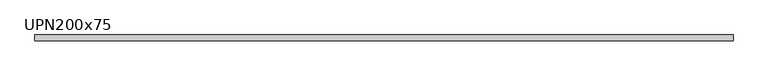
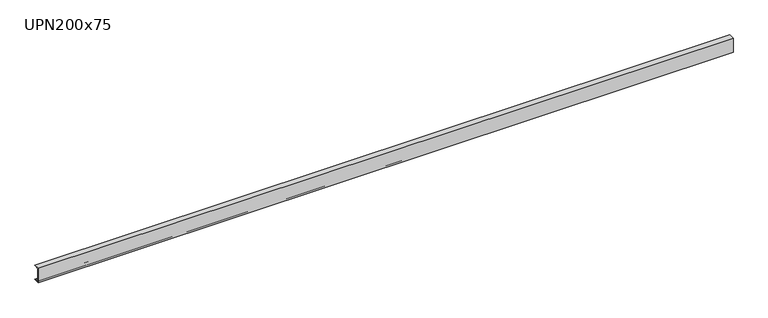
"""IFC4 building model written with IfcOpenShell, lengths in millimetres: beam geometry, M_MC Shapes : UPN200x75."""

import ifcopenshell
import ifcopenshell.guid

model = None  # the IFC model being written
_history = None  # IfcOwnerHistory: only IFC2X3 demands one
_inside = {}  # id of a spatial element -> (the spatial element, [elements in it])
_under = {}  # id of a project, library or spatial element -> (it, [spatial elements below it])
_declared = {}  # id of a project -> (the project, [libraries it declares])
_typed = {}  # id of a type object -> (the type object, [elements of that type])
_made_of = {}  # id of a material, layer set ... -> (it, [elements and type objects made of it])


def new_model(schema):
    """Start an empty IFC model of exactly this schema.

    Asked for "IFC4X3", IfcOpenShell would pick the latest addendum, in which some entities
    have other attributes; the version numbers below select the first issue.
    IFC2X3 requires an IfcOwnerHistory on every rooted entity: one is made here for all.
    """
    global model, _history
    if schema == "IFC4X3":
        model = ifcopenshell.file(schema_version=(4, 3, 0, 0))
    else:
        model = ifcopenshell.file(schema=schema)
    _inside.clear()
    _under.clear()
    _declared.clear()
    _typed.clear()
    _made_of.clear()
    _history = None
    if model.schema == "IFC2X3":
        org = make("IfcOrganization", Name="unknown")
        user = make(
            "IfcPersonAndOrganization",
            ThePerson=make("IfcPerson", FamilyName="unknown"),
            TheOrganization=org,
        )
        app = make(
            "IfcApplication",
            ApplicationDeveloper=org,
            Version="unknown",
            ApplicationFullName="unknown",
            ApplicationIdentifier="unknown",
        )
        _history = make(
            "IfcOwnerHistory",
            OwningUser=user,
            OwningApplication=app,
            ChangeAction="ADDED",
            CreationDate=0,
        )
    return model


def make(cls, **values):
    """One entity of the class cls with the attributes given. An attribute that is None is left unset."""
    return model.create_entity(
        cls, **{name: value for name, value in values.items() if value is not None}
    )


def rooted(cls, **values):
    """An entity with a GlobalId (a new one), such as an element, a storey or a relation."""
    return make(cls, GlobalId=ifcopenshell.guid.new(), OwnerHistory=_history, **values)


def si_unit(unit_type, name, prefix=None):
    """IfcSIUnit, for example si_unit("LENGTHUNIT", "METRE", prefix="MILLI")."""
    return make("IfcSIUnit", UnitType=unit_type, Prefix=prefix, Name=name)


def assignment(units):
    """IfcUnitAssignment: the units of a project."""
    return None if units is None else make("IfcUnitAssignment", Units=units)


def point(xyz):
    """IfcCartesianPoint."""
    return None if xyz is None else make("IfcCartesianPoint", Coordinates=xyz)


def direction(xyz):
    """IfcDirection."""
    return None if xyz is None else make("IfcDirection", DirectionRatios=xyz)


def frame(location, z_axis=None, x_axis=None):
    """IfcAxis2Placement3D, a coordinate frame: its origin and axes. An axis left out is left unset."""
    return make(
        "IfcAxis2Placement3D",
        Location=point(location),
        Axis=direction(z_axis),
        RefDirection=direction(x_axis),
    )


def frame_2d(location, x_axis=None):
    """IfcAxis2Placement2D, a coordinate frame in the plane: its origin and x axis."""
    return make(
        "IfcAxis2Placement2D", Location=point(location), RefDirection=direction(x_axis)
    )


def origin():
    """The frame at (0, 0, 0) with its axes left unset."""
    return frame((0.0, 0.0, 0.0))


def place(relative_to, where):
    """IfcLocalPlacement: puts the frame where relative to a parent placement (None: the world)."""
    return make(
        "IfcLocalPlacement", PlacementRelTo=relative_to, RelativePlacement=where
    )


def context(
    kind, dimensions, precision=None, world=None, true_north=None, identifier=None
):
    """IfcGeometricRepresentationContext, for example the 3D "Model" context."""
    return make(
        "IfcGeometricRepresentationContext",
        ContextIdentifier=identifier,
        ContextType=kind,
        CoordinateSpaceDimension=dimensions,
        Precision=precision,
        WorldCoordinateSystem=world,
        TrueNorth=true_north,
    )


def project(units=None, contexts=None):
    """IfcProject with its units and contexts."""
    return rooted(
        "IfcProject",
        Name="project",
        RepresentationContexts=contexts,
        UnitsInContext=assignment(units),
    )


def spatial(cls, under=None, at=None, **own):
    """A site, building, storey or space (cls), placed at a placement, below another one or the project."""
    s = rooted(cls, ObjectPlacement=at, **own)
    if under is not None:
        _under.setdefault(under.id(), (under, []))[1].append(s)
    return s


def polyline(points):
    """IfcPolyline through the points."""
    return make("IfcPolyline", Points=[point(p) for p in points])


def circle_curve(where, radius):
    """IfcCircle in the frame where."""
    return make("IfcCircle", Position=where, Radius=radius)


def trimmed(basis, trim1, trim2, sense, master):
    """IfcTrimmedCurve: the piece of a basis curve between two trims."""
    return make(
        "IfcTrimmedCurve",
        BasisCurve=basis,
        Trim1=trim1,
        Trim2=trim2,
        SenseAgreement=sense,
        MasterRepresentation=master,
    )


def segment(curve, same_sense, transition):
    """IfcCompositeCurveSegment."""
    return make(
        "IfcCompositeCurveSegment",
        Transition=transition,
        SameSense=same_sense,
        ParentCurve=curve,
    )


def composite_curve(segments, self_intersect=None):
    """IfcCompositeCurve: segments joined end to end."""
    return make("IfcCompositeCurve", Segments=segments, SelfIntersect=self_intersect)


def outline(outer, holes=None, kind="AREA"):
    """IfcArbitraryClosedProfileDef: a profile drawn as a closed curve; with holes, ...WithVoids."""
    if holes is None:
        return make("IfcArbitraryClosedProfileDef", ProfileType=kind, OuterCurve=outer)
    return make(
        "IfcArbitraryProfileDefWithVoids",
        ProfileType=kind,
        OuterCurve=outer,
        InnerCurves=holes,
    )


def extrude(swept, where, along, depth):
    """IfcExtrudedAreaSolid: the profile swept, set in the frame where, extruded along a direction by depth."""
    return make(
        "IfcExtrudedAreaSolid",
        SweptArea=swept,
        Position=where,
        ExtrudedDirection=direction(along),
        Depth=depth,
    )


def shape(context_of_items, identifier, shape_type, items):
    """IfcShapeRepresentation: the items that make up one representation, for example the "Body"."""
    return make(
        "IfcShapeRepresentation",
        ContextOfItems=context_of_items,
        RepresentationIdentifier=identifier,
        RepresentationType=shape_type,
        Items=items,
    )


def source(mapping_origin, context_of_items, identifier, shape_type, items):
    """IfcRepresentationMap: a shape defined once, which mapped items show again and again."""
    return make(
        "IfcRepresentationMap",
        MappingOrigin=mapping_origin,
        MappedRepresentation=shape(context_of_items, identifier, shape_type, items),
    )


def transform(
    local_origin,
    x_axis=None,
    y_axis=None,
    z_axis=None,
    scale=None,
    scale2=None,
    scale3=None,
    uniform=True,
):
    """IfcCartesianTransformationOperator3D, or its non-uniform kind. x_axis, y_axis, z_axis: its Axis1, 2, 3."""
    if uniform:
        return make(
            "IfcCartesianTransformationOperator3D",
            Axis1=direction(x_axis),
            Axis2=direction(y_axis),
            LocalOrigin=point(local_origin),
            Scale=scale,
            Axis3=direction(z_axis),
        )
    return make(
        "IfcCartesianTransformationOperator3DnonUniform",
        Axis1=direction(x_axis),
        Axis2=direction(y_axis),
        LocalOrigin=point(local_origin),
        Scale=scale,
        Axis3=direction(z_axis),
        Scale2=scale2,
        Scale3=scale3,
    )


def mapped(mapping_source, mapping_target):
    """IfcMappedItem: shows the shape of a source again, moved by a transform."""
    return make(
        "IfcMappedItem", MappingSource=mapping_source, MappingTarget=mapping_target
    )


def made_of(thing, what):
    """Note that an element or type object is made of a material, layer set ...; save() writes the relation."""
    if what is not None:
        _made_of.setdefault(what.id(), (what, []))[1].append(thing)
    return thing


def element(
    cls,
    number,
    at=None,
    inside=None,
    cuts=None,
    type_object=None,
    material=None,
    context=None,
    identifier="Body",
    shape_type=None,
    held_by="IfcProductDefinitionShape",
    body=None,
    shapes=None,
    **own,
):
    """One element of the class cls, such as IfcWall. Its Tag is "e" and its number.

    at: its placement. inside: the storey or other place that contains it. cuts: it is an
    opening in that element (IfcRelVoidsElement). A single representation is given by context,
    identifier, shape_type and body (its items); several are given by shapes. held_by: the class
    of the entity that holds the representations. save() writes the other relations.
    """
    e = rooted(cls, Tag="e%d" % number, ObjectPlacement=at, **own)
    if body is not None:
        shapes = [shape(context, identifier, shape_type, body)]
    if shapes is not None:
        e.Representation = make(held_by, Representations=shapes)
    if inside is not None:
        _inside.setdefault(inside.id(), (inside, []))[1].append(e)
    if cuts is not None:
        rooted(
            "IfcRelVoidsElement", RelatingBuildingElement=cuts, RelatedOpeningElement=e
        )
    if type_object is not None:
        _typed.setdefault(type_object.id(), (type_object, []))[1].append(e)
    return made_of(e, material)


def aggregate(whole, parts):
    """IfcRelAggregates: a whole, such as a stair, and the parts it consists of."""
    return rooted("IfcRelAggregates", RelatingObject=whole, RelatedObjects=parts)


def save(model, path):
    """Write the relations noted so far, then the file.

    IfcRelAggregates (storeys below a building ...), IfcRelContainedInSpatialStructure (elements
    in a storey), IfcRelDefinesByType, IfcRelAssociatesMaterial and IfcRelDeclares: one each for
    every whole, place, type object, material and project.
    """
    for whole, parts in _under.values():
        aggregate(whole, parts)
    for where, things in _inside.values():
        rooted(
            "IfcRelContainedInSpatialStructure",
            RelatedElements=things,
            RelatingStructure=where,
        )
    for kind, things in _typed.values():
        rooted("IfcRelDefinesByType", RelatedObjects=things, RelatingType=kind)
    for what, things in _made_of.values():
        rooted("IfcRelAssociatesMaterial", RelatedObjects=things, RelatingMaterial=what)
    for by, libraries in _declared.values():
        rooted("IfcRelDeclares", RelatingContext=by, RelatedDefinitions=libraries)
    model.write(path)


def upn200x75_89d3c056(model_context):
    return source(origin(), model_context, "Body", "SweptSolid", [
        extrude(outline(composite_curve([segment(polyline([(-10.9, 100.0), (64.1, 100.0), (64.1, 99.0253247)]), True, "CONTINUOUS"), segment(trimmed(circle_curve(frame_2d((60.15, 99.0253247)), 3.95), [point((64.1, 99.0253247))], [point((60.7993773, 95.1290689))], False, "CARTESIAN"), True, "CONTINUOUS"), segment(polyline([(60.7993773, 95.1290689), (0.2512455, 85.0376935)]), True, "CONTINUOUS"), segment(trimmed(circle_curve(frame_2d((1.55, 77.2451819)), 7.9), [point((0.2512455, 85.0376935))], [point((-6.35, 77.2451819))], True, "CARTESIAN"), True, "CONTINUOUS"), segment(polyline([(-6.35, 77.2451819), (-6.35, -77.2451819)]), True, "CONTINUOUS"), segment(trimmed(circle_curve(frame_2d((1.55, -77.2451819)), 7.9), [point((-6.35, -77.2451819))], [point((0.2512455, -85.0376935))], True, "CARTESIAN"), True, "CONTINUOUS"), segment(polyline([(0.2512455, -85.0376935), (60.7993773, -95.1290689)]), True, "CONTINUOUS"), segment(trimmed(circle_curve(frame_2d((60.15, -99.0253247)), 3.95), [point((60.7993773, -95.1290689))], [point((64.1, -99.0253247))], False, "CARTESIAN"), True, "CONTINUOUS"), segment(polyline([(64.1, -99.0253247), (64.1, -100.0), (-10.9, -100.0), (-10.9, 100.0)]), True, "CONTINUOUS")], self_intersect=False)), frame((-4686.85, 0.0, 0.0), z_axis=(1.0, 0.0, 0.0), x_axis=(0.0, 1.0, 0.0)), (0.0, 0.0, 1.0), 9187.2),
    ])


if __name__ == "__main__":
    model = new_model("IFC4")
    model_context = context("Model", 3, world=origin())
    ifc_project = project(units=[si_unit("LENGTHUNIT", "METRE", prefix="MILLI")], contexts=[model_context])
    site = spatial("IfcSite", under=ifc_project)
    building = spatial("IfcBuilding", under=site)
    placement = place(None, origin())
    upn200x75_shape = upn200x75_89d3c056(model_context)
    element("IfcBeam", 1, ObjectType="M_MC Shapes : UPN200x75", at=placement, inside=building, context=model_context, shape_type="MappedRepresentation", body=[
        mapped(upn200x75_shape, transform((0.0, 0.0, 0.0), x_axis=(1.0, 0.0, 0.0), y_axis=(0.0, 1.0, 0.0), z_axis=(0.0, 0.0, 1.0))),
    ])
    save(model, "model.ifc")
